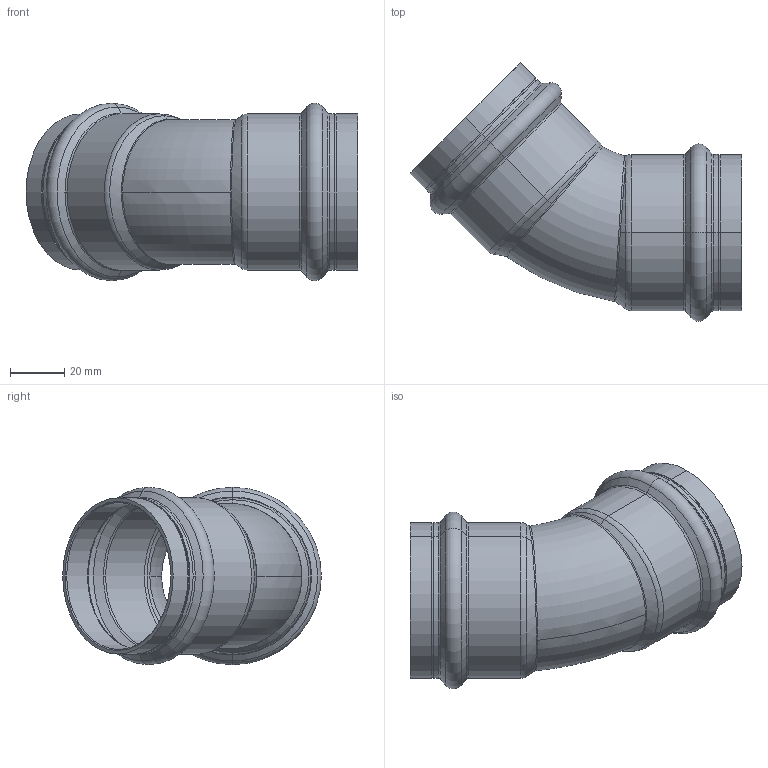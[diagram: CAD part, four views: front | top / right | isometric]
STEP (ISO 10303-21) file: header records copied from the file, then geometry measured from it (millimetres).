
FILE_DESCRIPTION (( 'STEP AP203' ), '1' );
FILE_NAME ('SP5041 Ø54.STEP', '2017-04-24T08:15:59', ( '' ), ( '' ), 'SwSTEP 2.0', 'SolidWorks 2016', '' );
FILE_SCHEMA (( 'CONFIG_CONTROL_DESIGN' ));
Length unit declared in the file: millimetre
Products named in the file (1): SP5041 ﾘ54
Bounding box: 122.86 x 95.69 x 65.66 mm (x, y, z)
Volume: 38070.6 mm3; surface area: 44473.9 mm2
Topology: 1 solids, 1 shells, 100 faces, 228 edges, 134 vertices
Faces by surface type: torus 36, cone 30, cylinder 24, plane 6, bspline 4
Entity records: 4267 total; most frequent: CARTESIAN_POINT 1881, DIRECTION 550, ORIENTED_EDGE 456, AXIS2_PLACEMENT_3D 249, EDGE_CURVE 228, CIRCLE 152, VERTEX_POINT 134, EDGE_LOOP 106
